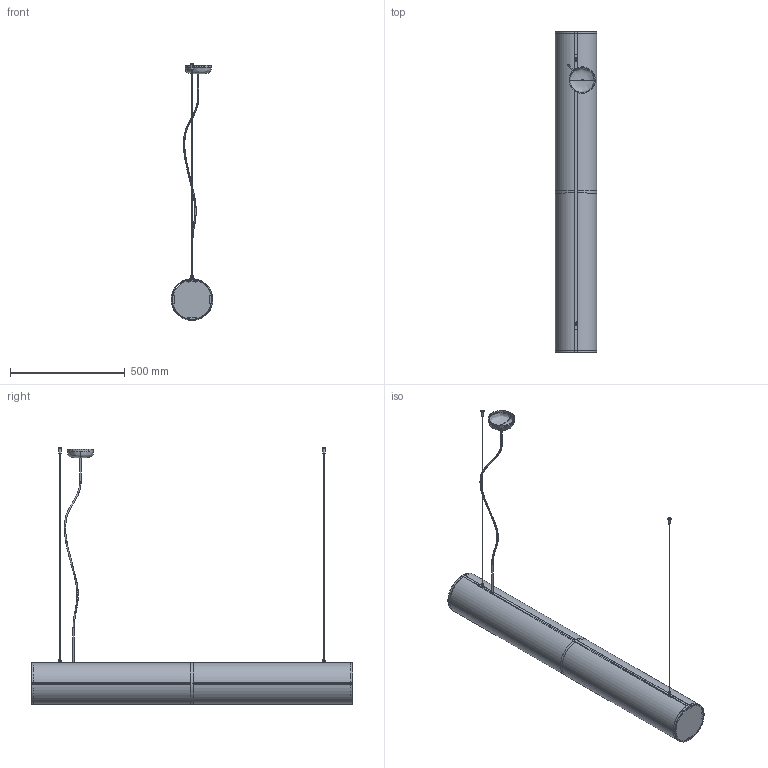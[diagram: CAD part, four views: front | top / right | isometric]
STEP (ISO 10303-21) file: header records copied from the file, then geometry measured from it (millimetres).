
FILE_DESCRIPTION(/* description */ (''),/* implementation_level */ '2;1');
FILE_NAME(/* name */ 'Hashira Horizontal Lamp',/* time_stamp */ '2024-05-06T11:24:43+02:00',/* author */ (''),/* organization */ (''),/* preprocessor_version */ 'ST-DEVELOPER v16.5',/* originating_system */ 'Rhino 7.31',/* authorisation */ '');
FILE_SCHEMA (('AUTOMOTIVE_DESIGN'));
Length unit declared in the file: millimetre
Products named in the file (2): Document; 盖板.STEP
Assembly tree (2 placements, depth 2):
  Document
    盖板.STEP  x2
Bounding box: 181.8 x 1403.05 x 1120.98 mm (x, y, z)
Volume: 332913.6 mm3; surface area: 2332418.7 mm2
Topology: 39 solids, 49 shells, 1052 faces, 2751 edges, 1792 vertices
Faces by surface type: plane 481, cylinder 392, bspline 179
Entity records: 42291 total; most frequent: CARTESIAN_POINT 24125, ORIENTED_EDGE 5381, EDGE_CURVE 2735, VERTEX_POINT 1788, B_SPLINE_CURVE_WITH_KNOTS 1645, EDGE_LOOP 1141, ADVANCED_FACE 1048, FACE_OUTER_BOUND 1048
